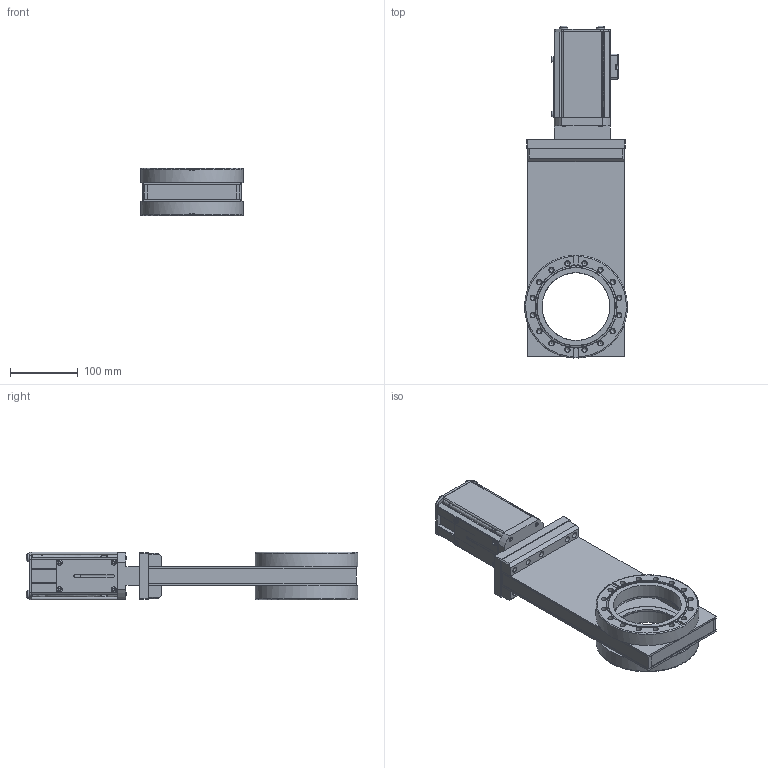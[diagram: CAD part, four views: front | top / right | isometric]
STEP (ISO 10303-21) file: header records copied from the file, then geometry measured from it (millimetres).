
FILE_DESCRIPTION((''),'2;1');
FILE_NAME('O:\MT\MT\Systeme\Cad\Datenexporte\www_vat_ch\225105.stp','2005-08-04T14:54:20',('User'),('SDRC'),'I-DEAS Master Series 9','UNIX','Yes');
FILE_SCHEMA(('CONFIG_CONTROL_DESIGN'));
Length unit declared in the file: millimetre
Assembly tree (52 placements, depth 0):
Bounding box: 151.6 x 489.89 x 70 mm (x, y, z)
Volume: 1372030.8 mm3; surface area: 513897.5 mm2
Topology: 66 solids, 66 shells, 1107 faces, 2466 edges, 1596 vertices
Faces by surface type: bspline 1107
Entity records: 24229 total; most frequent: CARTESIAN_POINT 11075, ORIENTED_EDGE 2776, EDGE_CURVE 1388, VERTEX_POINT 922, EDGE_LOOP 798, FACE_OUTER_BOUND 609, ADVANCED_FACE 609, QUASI_UNIFORM_CURVE 582
